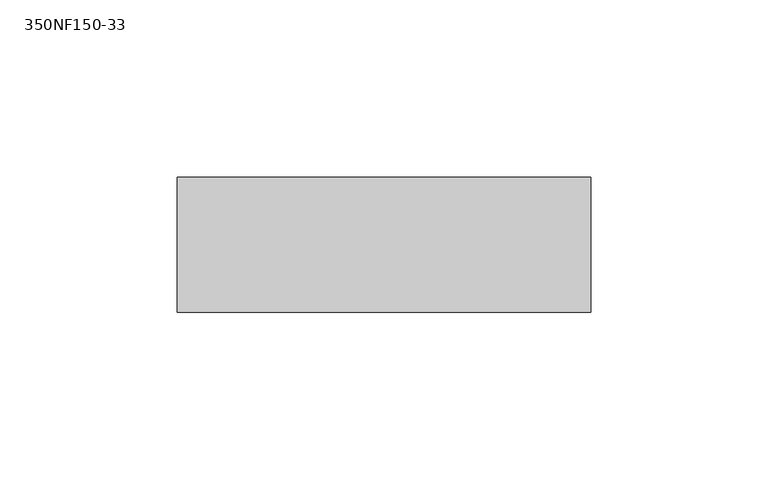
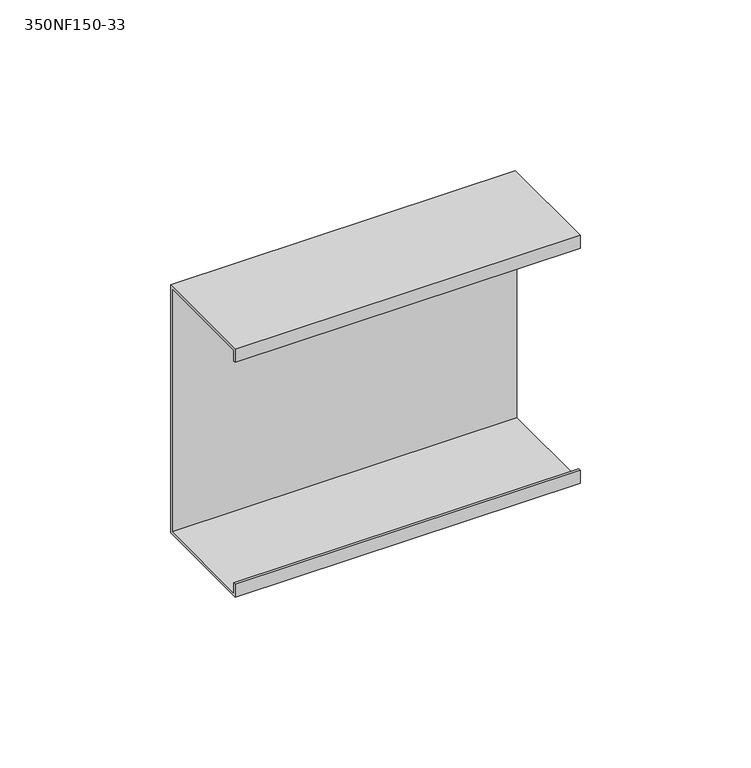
"""IFC4 building model written with IfcOpenShell, lengths in millimetres: beam geometry, BIMSF-SSMA-S : 350NF150-33."""

import ifcopenshell
import ifcopenshell.guid

model = None  # the IFC model being written
_history = None  # IfcOwnerHistory: only IFC2X3 demands one
_inside = {}  # id of a spatial element -> (the spatial element, [elements in it])
_under = {}  # id of a project, library or spatial element -> (it, [spatial elements below it])
_declared = {}  # id of a project -> (the project, [libraries it declares])
_typed = {}  # id of a type object -> (the type object, [elements of that type])
_made_of = {}  # id of a material, layer set ... -> (it, [elements and type objects made of it])


def new_model(schema):
    """Start an empty IFC model of exactly this schema.

    Asked for "IFC4X3", IfcOpenShell would pick the latest addendum, in which some entities
    have other attributes; the version numbers below select the first issue.
    IFC2X3 requires an IfcOwnerHistory on every rooted entity: one is made here for all.
    """
    global model, _history
    if schema == "IFC4X3":
        model = ifcopenshell.file(schema_version=(4, 3, 0, 0))
    else:
        model = ifcopenshell.file(schema=schema)
    _inside.clear()
    _under.clear()
    _declared.clear()
    _typed.clear()
    _made_of.clear()
    _history = None
    if model.schema == "IFC2X3":
        org = make("IfcOrganization", Name="unknown")
        user = make(
            "IfcPersonAndOrganization",
            ThePerson=make("IfcPerson", FamilyName="unknown"),
            TheOrganization=org,
        )
        app = make(
            "IfcApplication",
            ApplicationDeveloper=org,
            Version="unknown",
            ApplicationFullName="unknown",
            ApplicationIdentifier="unknown",
        )
        _history = make(
            "IfcOwnerHistory",
            OwningUser=user,
            OwningApplication=app,
            ChangeAction="ADDED",
            CreationDate=0,
        )
    return model


def make(cls, **values):
    """One entity of the class cls with the attributes given. An attribute that is None is left unset."""
    return model.create_entity(
        cls, **{name: value for name, value in values.items() if value is not None}
    )


def rooted(cls, **values):
    """An entity with a GlobalId (a new one), such as an element, a storey or a relation."""
    return make(cls, GlobalId=ifcopenshell.guid.new(), OwnerHistory=_history, **values)


def si_unit(unit_type, name, prefix=None):
    """IfcSIUnit, for example si_unit("LENGTHUNIT", "METRE", prefix="MILLI")."""
    return make("IfcSIUnit", UnitType=unit_type, Prefix=prefix, Name=name)


def assignment(units):
    """IfcUnitAssignment: the units of a project."""
    return None if units is None else make("IfcUnitAssignment", Units=units)


def point(xyz):
    """IfcCartesianPoint."""
    return None if xyz is None else make("IfcCartesianPoint", Coordinates=xyz)


def direction(xyz):
    """IfcDirection."""
    return None if xyz is None else make("IfcDirection", DirectionRatios=xyz)


def frame(location, z_axis=None, x_axis=None):
    """IfcAxis2Placement3D, a coordinate frame: its origin and axes. An axis left out is left unset."""
    return make(
        "IfcAxis2Placement3D",
        Location=point(location),
        Axis=direction(z_axis),
        RefDirection=direction(x_axis),
    )


def origin():
    """The frame at (0, 0, 0) with its axes left unset."""
    return frame((0.0, 0.0, 0.0))


def place(relative_to, where):
    """IfcLocalPlacement: puts the frame where relative to a parent placement (None: the world)."""
    return make(
        "IfcLocalPlacement", PlacementRelTo=relative_to, RelativePlacement=where
    )


def context(
    kind, dimensions, precision=None, world=None, true_north=None, identifier=None
):
    """IfcGeometricRepresentationContext, for example the 3D "Model" context."""
    return make(
        "IfcGeometricRepresentationContext",
        ContextIdentifier=identifier,
        ContextType=kind,
        CoordinateSpaceDimension=dimensions,
        Precision=precision,
        WorldCoordinateSystem=world,
        TrueNorth=true_north,
    )


def project(units=None, contexts=None):
    """IfcProject with its units and contexts."""
    return rooted(
        "IfcProject",
        Name="project",
        RepresentationContexts=contexts,
        UnitsInContext=assignment(units),
    )


def spatial(cls, under=None, at=None, **own):
    """A site, building, storey or space (cls), placed at a placement, below another one or the project."""
    s = rooted(cls, ObjectPlacement=at, **own)
    if under is not None:
        _under.setdefault(under.id(), (under, []))[1].append(s)
    return s


def polyline(points):
    """IfcPolyline through the points."""
    return make("IfcPolyline", Points=[point(p) for p in points])


def outline(outer, holes=None, kind="AREA"):
    """IfcArbitraryClosedProfileDef: a profile drawn as a closed curve; with holes, ...WithVoids."""
    if holes is None:
        return make("IfcArbitraryClosedProfileDef", ProfileType=kind, OuterCurve=outer)
    return make(
        "IfcArbitraryProfileDefWithVoids",
        ProfileType=kind,
        OuterCurve=outer,
        InnerCurves=holes,
    )


def extrude(swept, where, along, depth):
    """IfcExtrudedAreaSolid: the profile swept, set in the frame where, extruded along a direction by depth."""
    return make(
        "IfcExtrudedAreaSolid",
        SweptArea=swept,
        Position=where,
        ExtrudedDirection=direction(along),
        Depth=depth,
    )


def shape(context_of_items, identifier, shape_type, items):
    """IfcShapeRepresentation: the items that make up one representation, for example the "Body"."""
    return make(
        "IfcShapeRepresentation",
        ContextOfItems=context_of_items,
        RepresentationIdentifier=identifier,
        RepresentationType=shape_type,
        Items=items,
    )


def source(mapping_origin, context_of_items, identifier, shape_type, items):
    """IfcRepresentationMap: a shape defined once, which mapped items show again and again."""
    return make(
        "IfcRepresentationMap",
        MappingOrigin=mapping_origin,
        MappedRepresentation=shape(context_of_items, identifier, shape_type, items),
    )


def transform(
    local_origin,
    x_axis=None,
    y_axis=None,
    z_axis=None,
    scale=None,
    scale2=None,
    scale3=None,
    uniform=True,
):
    """IfcCartesianTransformationOperator3D, or its non-uniform kind. x_axis, y_axis, z_axis: its Axis1, 2, 3."""
    if uniform:
        return make(
            "IfcCartesianTransformationOperator3D",
            Axis1=direction(x_axis),
            Axis2=direction(y_axis),
            LocalOrigin=point(local_origin),
            Scale=scale,
            Axis3=direction(z_axis),
        )
    return make(
        "IfcCartesianTransformationOperator3DnonUniform",
        Axis1=direction(x_axis),
        Axis2=direction(y_axis),
        LocalOrigin=point(local_origin),
        Scale=scale,
        Axis3=direction(z_axis),
        Scale2=scale2,
        Scale3=scale3,
    )


def mapped(mapping_source, mapping_target):
    """IfcMappedItem: shows the shape of a source again, moved by a transform."""
    return make(
        "IfcMappedItem", MappingSource=mapping_source, MappingTarget=mapping_target
    )


def made_of(thing, what):
    """Note that an element or type object is made of a material, layer set ...; save() writes the relation."""
    if what is not None:
        _made_of.setdefault(what.id(), (what, []))[1].append(thing)
    return thing


def element(
    cls,
    number,
    at=None,
    inside=None,
    cuts=None,
    type_object=None,
    material=None,
    context=None,
    identifier="Body",
    shape_type=None,
    held_by="IfcProductDefinitionShape",
    body=None,
    shapes=None,
    **own,
):
    """One element of the class cls, such as IfcWall. Its Tag is "e" and its number.

    at: its placement. inside: the storey or other place that contains it. cuts: it is an
    opening in that element (IfcRelVoidsElement). A single representation is given by context,
    identifier, shape_type and body (its items); several are given by shapes. held_by: the class
    of the entity that holds the representations. save() writes the other relations.
    """
    e = rooted(cls, Tag="e%d" % number, ObjectPlacement=at, **own)
    if body is not None:
        shapes = [shape(context, identifier, shape_type, body)]
    if shapes is not None:
        e.Representation = make(held_by, Representations=shapes)
    if inside is not None:
        _inside.setdefault(inside.id(), (inside, []))[1].append(e)
    if cuts is not None:
        rooted(
            "IfcRelVoidsElement", RelatingBuildingElement=cuts, RelatedOpeningElement=e
        )
    if type_object is not None:
        _typed.setdefault(type_object.id(), (type_object, []))[1].append(e)
    return made_of(e, material)


def aggregate(whole, parts):
    """IfcRelAggregates: a whole, such as a stair, and the parts it consists of."""
    return rooted("IfcRelAggregates", RelatingObject=whole, RelatedObjects=parts)


def save(model, path):
    """Write the relations noted so far, then the file.

    IfcRelAggregates (storeys below a building ...), IfcRelContainedInSpatialStructure (elements
    in a storey), IfcRelDefinesByType, IfcRelAssociatesMaterial and IfcRelDeclares: one each for
    every whole, place, type object, material and project.
    """
    for whole, parts in _under.values():
        aggregate(whole, parts)
    for where, things in _inside.values():
        rooted(
            "IfcRelContainedInSpatialStructure",
            RelatedElements=things,
            RelatingStructure=where,
        )
    for kind, things in _typed.values():
        rooted("IfcRelDefinesByType", RelatedObjects=things, RelatingType=kind)
    for what, things in _made_of.values():
        rooted("IfcRelAssociatesMaterial", RelatedObjects=things, RelatingMaterial=what)
    for by, libraries in _declared.values():
        rooted("IfcRelDeclares", RelatingContext=by, RelatedDefinitions=libraries)
    model.write(path)


def beam_350nf150_33_feebbda8(model_context):
    return source(origin(), model_context, "Body", "SweptSolid", [
        extrude(outline(polyline([(19.05, 44.45), (19.05, -44.45), (-19.05, -44.45), (-19.05, -39.6748), (-18.1676842, -39.6748), (-18.1676842, -43.5676842), (18.1676842, -43.5676842), (18.1676842, 43.5676842), (-18.1676842, 43.5676842), (-18.1676842, 39.6748), (-19.05, 39.6748), (-19.05, 44.45), (19.05, 44.45)])), frame((-58.340625, 0.0, 0.0), z_axis=(1.0, 0.0, 0.0), x_axis=(0.0, 1.0, 0.0)), (0.0, 0.0, 1.0), 116.68125),
    ])


if __name__ == "__main__":
    model = new_model("IFC4")
    model_context = context("Model", 3, world=origin())
    ifc_project = project(units=[si_unit("LENGTHUNIT", "METRE", prefix="MILLI")], contexts=[model_context])
    site = spatial("IfcSite", under=ifc_project)
    building = spatial("IfcBuilding", under=site)
    placement = place(None, origin())
    beam_350nf150_33_shape = beam_350nf150_33_feebbda8(model_context)
    element("IfcBeam", 1, ObjectType="BIMSF-SSMA-S : 350NF150-33", at=placement, inside=building, context=model_context, shape_type="MappedRepresentation", body=[
        mapped(beam_350nf150_33_shape, transform((0.0, 0.0, 0.0), x_axis=(1.0, 0.0, 0.0), y_axis=(0.0, 1.0, 0.0), z_axis=(0.0, 0.0, 1.0))),
    ])
    save(model, "model.ifc")
